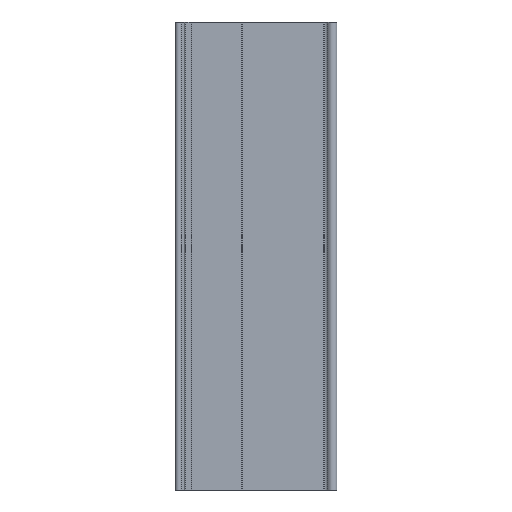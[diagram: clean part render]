
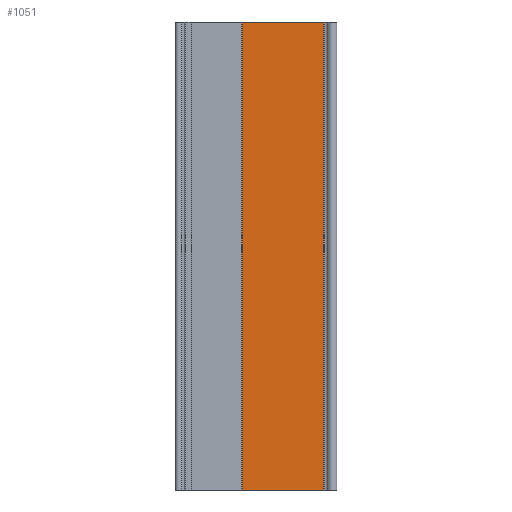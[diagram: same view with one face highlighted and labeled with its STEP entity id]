
A CAD part, front view. The second image highlights one B-rep face of the part: STEP entity #1051.
In plain terms, the highlighted planar face has unit normal (0, -1, 0).
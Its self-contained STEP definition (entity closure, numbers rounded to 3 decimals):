
#104=DIRECTION('',(1.,0.,0.));
#105=VECTOR('',#104,53.3);
#106=CARTESIAN_POINT('',(-8.5,-2.05,-101.6));
#107=LINE('',#106,#105);
#196=DIRECTION('',(-1.,0.,0.));
#197=VECTOR('',#196,53.3);
#198=CARTESIAN_POINT('',(44.8,-2.05,203.2));
#199=LINE('',#198,#197);
#370=DIRECTION('',(0.,0.,1.));
#371=VECTOR('',#370,304.8);
#372=CARTESIAN_POINT('',(44.8,-2.05,-101.6));
#373=LINE('',#372,#371);
#378=DIRECTION('',(0.,0.,1.));
#379=VECTOR('',#378,304.8);
#380=CARTESIAN_POINT('',(-8.5,-2.05,-101.6));
#381=LINE('',#380,#379);
#568=CARTESIAN_POINT('',(44.8,-2.05,203.2));
#569=VERTEX_POINT('',#568);
#570=CARTESIAN_POINT('',(-8.5,-2.05,203.2));
#571=VERTEX_POINT('',#570);
#706=CARTESIAN_POINT('',(-8.5,-2.05,-101.6));
#707=VERTEX_POINT('',#706);
#708=CARTESIAN_POINT('',(44.8,-2.05,-101.6));
#709=VERTEX_POINT('',#708);
#1039=CARTESIAN_POINT('',(-4.,-2.05,0.));
#1040=DIRECTION('',(0.,-1.,0.));
#1041=DIRECTION('',(1.,0.,0.));
#1042=AXIS2_PLACEMENT_3D('',#1039,#1040,#1041);
#1043=PLANE('',#1042);
#1044=ORIENTED_EDGE('',*,*,#1032,.F.);
#1045=ORIENTED_EDGE('',*,*,#791,.F.);
#1047=ORIENTED_EDGE('',*,*,#1046,.T.);
#1048=ORIENTED_EDGE('',*,*,#866,.F.);
#1049=EDGE_LOOP('',(#1044,#1045,#1047,#1048));
#1050=FACE_OUTER_BOUND('',#1049,.F.);
#1051=ADVANCED_FACE('',(#1050),#1043,.T.);
#791=EDGE_CURVE('',#707,#709,#107,.T.);
#866=EDGE_CURVE('',#569,#571,#199,.T.);
#1032=EDGE_CURVE('',#709,#569,#373,.T.);
#1046=EDGE_CURVE('',#707,#571,#381,.T.);
